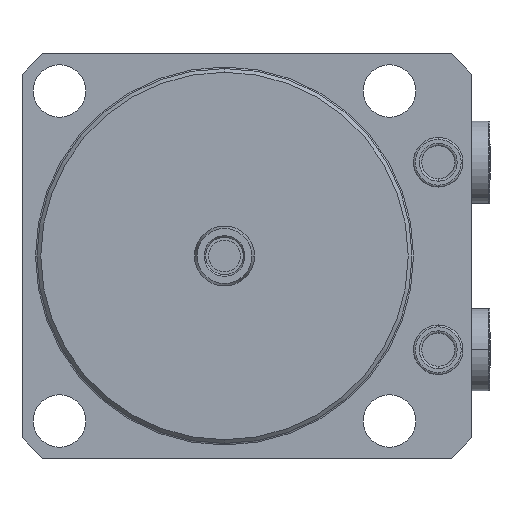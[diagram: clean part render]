
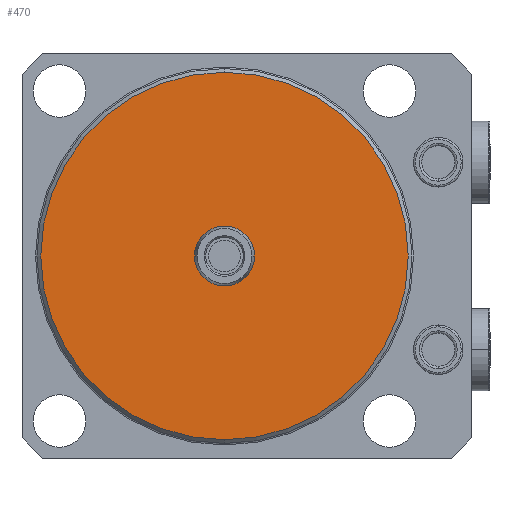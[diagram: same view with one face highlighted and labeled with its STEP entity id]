
A CAD part, front view. The second image highlights one B-rep face of the part: STEP entity #470.
In plain terms, the highlighted planar face has unit normal (0, -1, 0) as drawn and (0, 1, 0) by its records, which use the part's own axes.
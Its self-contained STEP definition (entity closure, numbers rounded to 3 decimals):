
#204=PLANE('',#4866);
#314=FACE_BOUND('',#1124,.F.);
#315=FACE_BOUND('',#1125,.F.);
#470=ADVANCED_FACE('',(#314,#315),#204,.T.);
#1124=EDGE_LOOP('',(#2001,#2002));
#1125=EDGE_LOOP('',(#2003,#2004));
#1405=CIRCLE('',#4743,8.);
#1460=CIRCLE('',#4821,49.);
#1482=CIRCLE('',#4864,8.);
#1483=CIRCLE('',#4865,49.);
#2001=ORIENTED_EDGE('',*,*,#3668,.T.);
#2002=ORIENTED_EDGE('',*,*,#3468,.T.);
#2003=ORIENTED_EDGE('',*,*,#3669,.T.);
#2004=ORIENTED_EDGE('',*,*,#3556,.T.);
#3036=VERTEX_POINT('',#6873);
#3037=VERTEX_POINT('',#6874);
#3108=VERTEX_POINT('',#7061);
#3109=VERTEX_POINT('',#7062);
#3468=EDGE_CURVE('',#3036,#3037,#1405,.T.);
#3556=EDGE_CURVE('',#3108,#3109,#1460,.T.);
#3668=EDGE_CURVE('',#3037,#3036,#1482,.T.);
#3669=EDGE_CURVE('',#3109,#3108,#1483,.T.);
#4743=AXIS2_PLACEMENT_3D('',#6872,#5389,#5390);
#4821=AXIS2_PLACEMENT_3D('',#7060,#5577,#5578);
#4864=AXIS2_PLACEMENT_3D('',#7394,#5725,#5726);
#4865=AXIS2_PLACEMENT_3D('',#7395,#5727,#5728);
#4866=AXIS2_PLACEMENT_3D('',#7396,#5729,#5730);
#5389=DIRECTION('',(0.,1.,0.));
#5390=DIRECTION('',(0.,0.,1.));
#5577=DIRECTION('',(0.,-1.,0.));
#5578=DIRECTION('',(0.,0.,1.));
#5725=DIRECTION('',(0.,1.,0.));
#5726=DIRECTION('',(0.,0.,1.));
#5727=DIRECTION('',(0.,-1.,0.));
#5728=DIRECTION('',(0.,0.,1.));
#5729=DIRECTION('',(0.,1.,0.));
#5730=DIRECTION('',(0.,0.,1.));
#6872=CARTESIAN_POINT('',(0.,-65.,0.));
#6873=CARTESIAN_POINT('',(0.,-65.,-8.));
#6874=CARTESIAN_POINT('',(0.,-65.,8.));
#7060=CARTESIAN_POINT('',(0.,-65.,0.));
#7061=CARTESIAN_POINT('',(0.,-65.,-49.));
#7062=CARTESIAN_POINT('',(0.,-65.,49.));
#7394=CARTESIAN_POINT('',(0.,-65.,0.));
#7395=CARTESIAN_POINT('',(0.,-65.,0.));
#7396=CARTESIAN_POINT('',(0.,-65.,0.));
